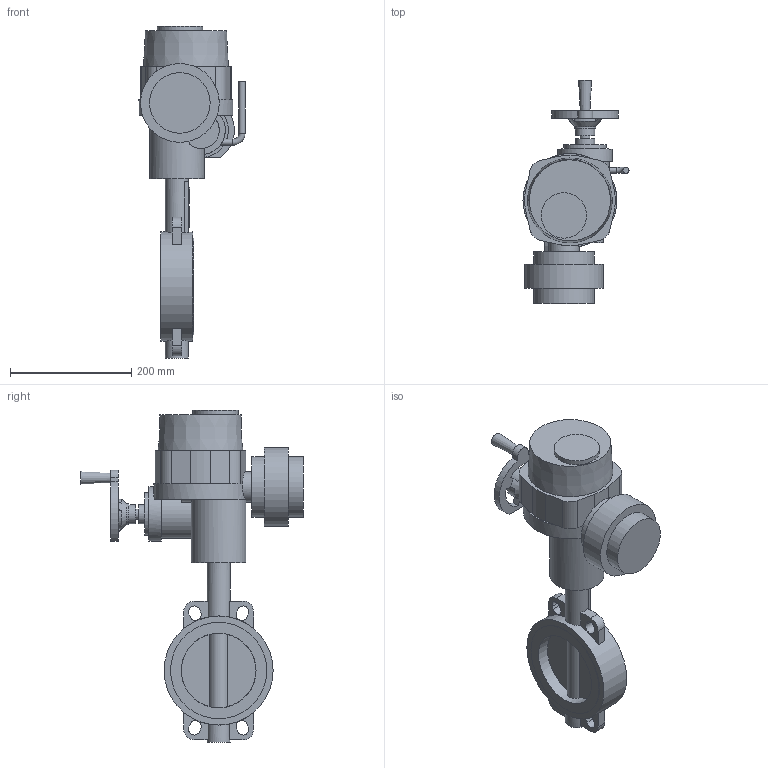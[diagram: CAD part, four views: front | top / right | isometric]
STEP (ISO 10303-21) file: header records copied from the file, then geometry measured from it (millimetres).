
FILE_DESCRIPTION(('STEP AP203'), '1');
FILE_NAME('Çàòâîð 017W.Z(ñòàëü) DN125+ÝÏ QT.A010', '', ('UNSPECIFIED'), ('UNSPECIFIED'), 'ASCON STEP Converter 1.6', 'ASCON Math Kernel', '');
FILE_SCHEMA(('CONFIG_CONTROL_DESIGN'));
Length unit declared in the file: millimetre
Bounding box: 175 x 368 x 548 mm (x, y, z)
Volume: 5783792.7 mm3; surface area: 372456.9 mm2
Topology: 1 solids, 1 shells, 722 faces, 2024 edges, 1345 vertices
Faces by surface type: cylinder 465, plane 253, cone 3, torus 1
Full cylindrical faces by diameter (mm): 6.7 x4, 10 x6, 16 x1, 32 x2, 35 x1, 38 x2, 50 x1, 70 x1, 75 x1, 90 x2, 100 x2, 123.3 x2, 130 x1, 159 x2, 180 x1
Entity records: 30309 total; most frequent: CARTESIAN_POINT 5051, DIRECTION 4380, ORIENTED_EDGE 3982, EDGE_CURVE 1991, AXIS2_PLACEMENT_3D 1689, VERTEX_POINT 1345, LINE 1002, VECTOR 1002
